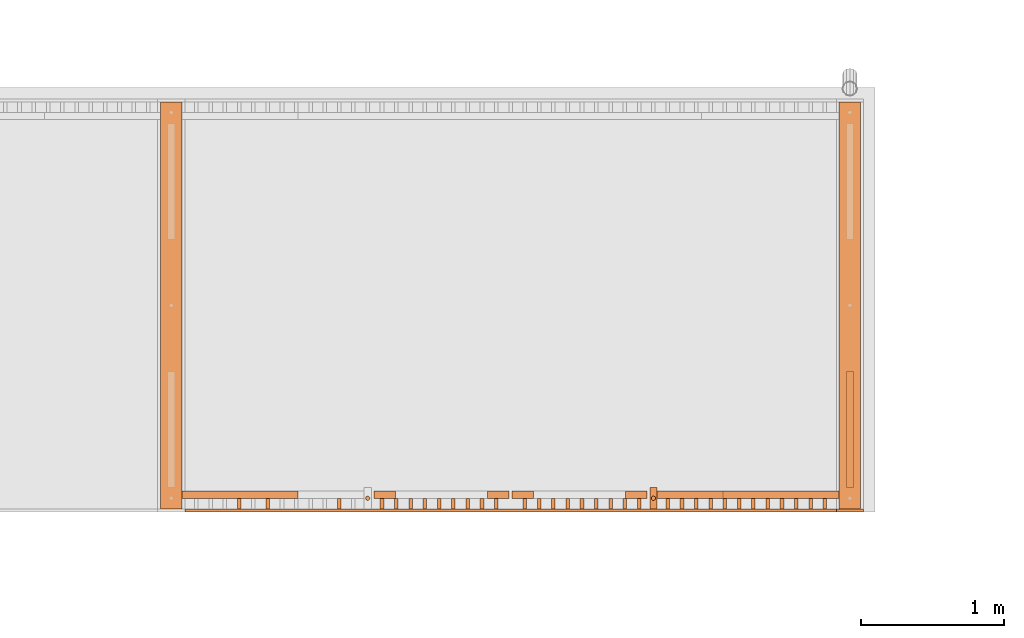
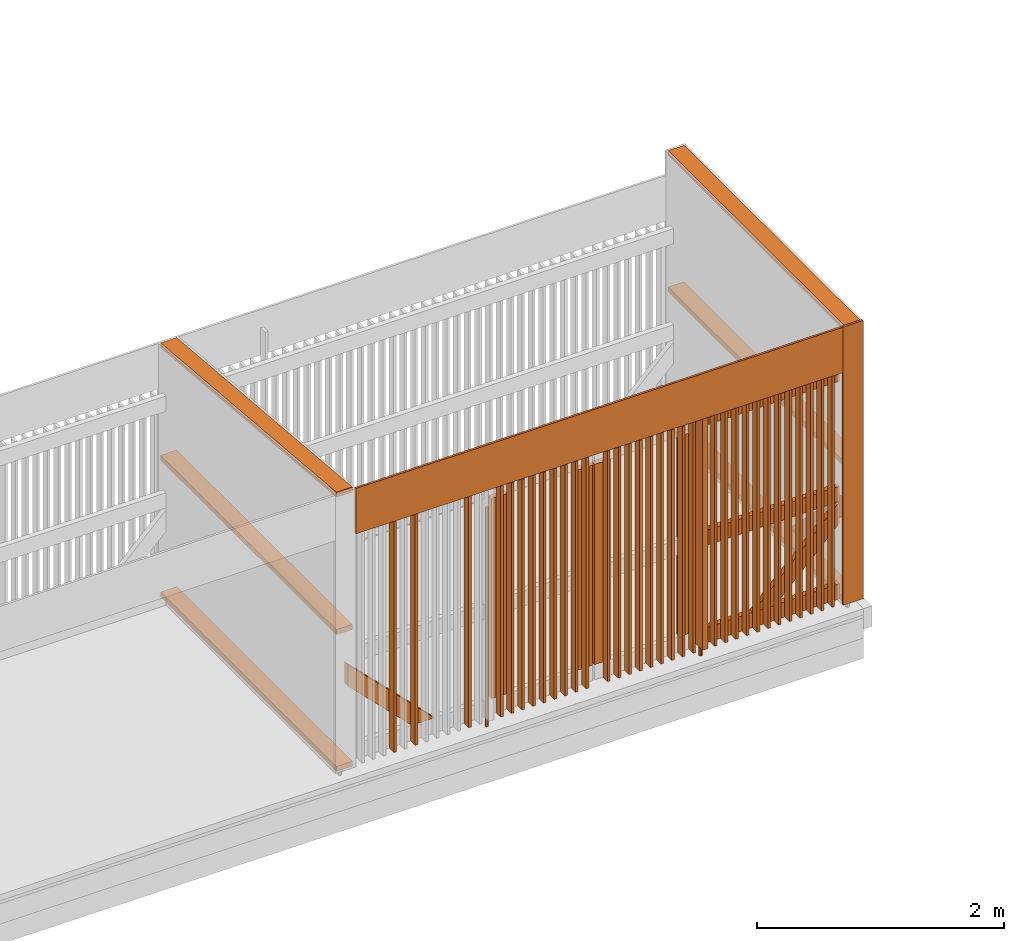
# One storey, part 353 of 418: 54 proxies.
"""IFC2X3 building model written with IfcOpenShell, lengths in millimetres."""

from ifc_helpers import new_model, entity, si_unit, converted_unit, derived_unit, money_unit, direction, frame, frame_2d, origin_with_axes, origin_2d_with_axis, place, context, subcontext, project, spatial, polyline, rectangle, circle, outline, extrude, clip, halfspace, material, type_object, element, save


model = new_model("IFC2X3")

# Units and contexts
model_context = context("Model", 3, precision=0.01, world=origin_with_axes(), true_north=direction((0.0, 1.0)))
body_context = subcontext(model_context, "Body", "Model", "MODEL_VIEW")
ifc_project = project(units=[si_unit("LENGTHUNIT", "METRE", prefix="MILLI"), si_unit("AREAUNIT", "SQUARE_METRE"), si_unit("VOLUMEUNIT", "CUBIC_METRE"), converted_unit("PLANEANGLEUNIT", "DEGREE", entity("IfcPlaneAngleMeasure", 0.0174532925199), si_unit("PLANEANGLEUNIT", "RADIAN"), dimensions=[0, 0, 0, 0, 0, 0, 0]), si_unit("SOLIDANGLEUNIT", "STERADIAN"), money_unit("EUR"), converted_unit("TIMEUNIT", "Year", entity("IfcTimeMeasure", 31556926.0), si_unit("TIMEUNIT", "SECOND"), dimensions=[0, 0, 1, 0, 0, 0, 0]), si_unit("MASSUNIT", "GRAM", prefix="KILO"), si_unit("THERMODYNAMICTEMPERATUREUNIT", "DEGREE_CELSIUS"), si_unit("LUMINOUSINTENSITYUNIT", "LUMEN"), si_unit("ENERGYUNIT", "JOULE", prefix="MEGA"), derived_unit("THERMALCONDUCTANCEUNIT", [(si_unit("POWERUNIT", "WATT"), 1), (si_unit("LENGTHUNIT", "METRE"), -1), (si_unit("THERMODYNAMICTEMPERATUREUNIT", "KELVIN"), -1)]), derived_unit("SPECIFICHEATCAPACITYUNIT", [(si_unit("ENERGYUNIT", "JOULE"), 1), (si_unit("MASSUNIT", "GRAM", prefix="KILO"), -1), (si_unit("THERMODYNAMICTEMPERATUREUNIT", "KELVIN"), -1)]), derived_unit("MASSDENSITYUNIT", [(si_unit("MASSUNIT", "GRAM", prefix="KILO"), 1), (si_unit("VOLUMEUNIT", "CUBIC_METRE"), -1)])], contexts=[model_context])

# Site, building, storey
site_placement = place(None, origin_with_axes())
site = spatial("IfcSite", under=ifc_project, at=site_placement, Name="Paldiski mnt 245/1, Tallinn, Harjumaa", CompositionType="COMPLEX")
building_placement = place(site_placement, origin_with_axes())
building = spatial("IfcBuilding", under=site, at=building_placement, Name="RKAS Hoone üldnimetus (kasutust iseloomustav) -> IFC Project Manager -> SOLIBRI", CompositionType="ELEMENT")
storey_placement = place(building_placement, origin_with_axes())
storey = spatial("IfcBuildingStorey", under=building, at=storey_placement, Name="Esimene korrus", CompositionType="ELEMENT", Elevation=0.0)

# Proxies
ifc_material_1 = material(Name="Voodrilaud UYS 21x120mm")
building_element_proxy_type_1 = type_object("IfcBuildingElementProxyType", Name="Voodrilaud UYS 21x120mm 20", PredefinedType="NOTDEFINED")
proxy_1_placement = place(storey_placement, frame((-7319.27179277, 11169.7949735, -960.0), z_axis=(0.0, 0.0, 1.0), x_axis=(1.0, 0.0, 0.0)))
element("IfcBuildingElementProxy", 1, at=proxy_1_placement, inside=storey, type_object=building_element_proxy_type_1, material=ifc_material_1, Name="Välissein_1", context=body_context, shape_type="SweptSolid", body=[
    extrude(outline(polyline([(0.0, -20.0), (189.999991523, -20.0), (189.999991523, 0.0), (0.0, 0.0), (0.0, -20.0)])), origin_with_axes(), (0.0, 0.0, 1.0), 2752.59465133),
])
ifc_material_2 = material(Name="Puit konstruktsioon")
building_element_proxy_type_2 = type_object("IfcBuildingElementProxyType", Name="Puit konstruktsioon 50 x 150", PredefinedType="NOTDEFINED")
for number, where, z_axis, x_axis, name in (
    (2, (-7299.27179195, 11269.7949578, 153.066690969), (0.0, 0.0, 1.0), (0.0, 1.0, 0.0), "Puitpruss 50x150mm"),
    (3, (-7299.27179195, 11269.7949578, 1342.59465133), (0.0, 0.0, 1.0), (0.0, 1.0, 0.0), "Puitpruss 50x150mm"),
):
    element("IfcBuildingElementProxy", number, at=place(storey_placement, frame(where, z_axis=z_axis, x_axis=x_axis)), inside=storey, type_object=building_element_proxy_type_2, material=ifc_material_2, Name=name, context=body_context, shape_type="SweptSolid", body=[
        extrude(rectangle(XDim=150.0, YDim=50.0, at=frame_2d((-75.0, 0.0), x_axis=(1.0, 0.0))), frame((0.0, 0.0, 0.0), z_axis=(0.0, 1.0, 0.0), x_axis=(0.0, 0.0, 1.0)), (0.0, 0.0, 1.0), 1275.0000093),
    ])
for number, where, z_axis, x_axis, name in (
    (4, (-10479.2718012, 11269.7949578, -810.0), (0.0, 0.0, 1.0), (0.0, 1.0, 0.0), "Puitraam 50x150mm"),
    (5, (-9684.27180125, 11269.7949578, -810.0), (0.0, 0.0, 1.0), (0.0, 1.0, 0.0), "Puitraam 50x150mm"),
):
    element("IfcBuildingElementProxy", number, at=place(storey_placement, frame(where, z_axis=z_axis, x_axis=x_axis)), inside=storey, type_object=building_element_proxy_type_2, material=ifc_material_2, Name=name, context=body_context, shape_type="SweptSolid", body=[
        extrude(rectangle(XDim=50.0, YDim=150.0, at=origin_2d_with_axis()), origin_with_axes(), (0.0, 0.0, 1.0), 1982.59465133),
    ])
proxy_2_placement = place(storey_placement, frame((-8110.80517379, 11269.7949578, -811.53338184), z_axis=(0.0, 0.0, 1.0), x_axis=(0.0, -1.0, 0.0)))
element("IfcBuildingElementProxy", 6, at=proxy_2_placement, inside=storey, type_object=building_element_proxy_type_2, material=ifc_material_2, Name="Puitpruss 150x50 mm", context=body_context, shape_type="Clipping", body=[
    clip(clip(extrude(rectangle(XDim=150.0, YDim=50.0, at=frame_2d((-75.0, 0.0), x_axis=(1.0, 0.0))), frame((0.0, -150.0, -150.0), z_axis=(0.0, 0.707106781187, 0.707106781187), x_axis=(0.0, -0.707106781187, 0.707106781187)), (0.0, 0.0, 1.0), 1571.94558363), halfspace(frame((0.0, 0.0, 0.0), z_axis=(0.0, 0.0, 1.0), x_axis=(0.0, -1.0, 0.0)), True)), halfspace(frame((0.0, 811.53338184, 0.0), z_axis=(0.0, -1.0, 0.0), x_axis=(0.0, 0.0, -1.0)), True)),
])
proxy_3_placement = place(storey_placement, frame((-8599.27180125, 11244.7949578, -960.0), z_axis=(0.0, 0.0, 1.0), x_axis=(-1.0, 0.0, 0.0)))
element("IfcBuildingElementProxy", 7, at=proxy_3_placement, inside=storey, type_object=building_element_proxy_type_2, material=ifc_material_2, Name="Puitpruss 50x150 mm", context=body_context, shape_type="SweptSolid", body=[
    extrude(rectangle(XDim=50.0, YDim=150.0, at=origin_2d_with_axis()), origin_with_axes(), (0.0, 0.0, 1.0), 2302.59465133),
])
proxy_4_placement = place(storey_placement, frame((-7299.27179195, 11269.7949578, -810.0), z_axis=(0.0, 0.0, 1.0), x_axis=(0.0, 1.0, 0.0)))
element("IfcBuildingElementProxy", 8, at=proxy_4_placement, inside=storey, type_object=building_element_proxy_type_2, material=ifc_material_2, Name="Puitpruss 50x150 mm", context=body_context, shape_type="SweptSolid", body=[
    extrude(rectangle(XDim=150.0, YDim=50.0, at=frame_2d((-75.0, 0.0), x_axis=(1.0, 0.0))), frame((0.0, 0.0, 0.0), z_axis=(0.0, 1.0, 0.0), x_axis=(0.0, 0.0, 1.0)), (0.0, 0.0, 1.0), 1275.0000093),
])
for number, where, z_axis, x_axis, name in (
    (9, (-8719.27180125, 11269.7949578, -810.0), (0.0, 0.0, 1.0), (0.0, -1.0, 0.0), "Puitraam 50x150mm"),
    (10, (-9514.27180125, 11269.7949578, -810.0), (0.0, 0.0, 1.0), (0.0, -1.0, 0.0), "Puitraam 50x150mm"),
):
    element("IfcBuildingElementProxy", number, at=place(storey_placement, frame(where, z_axis=z_axis, x_axis=x_axis)), inside=storey, type_object=building_element_proxy_type_2, material=ifc_material_2, Name=name, context=body_context, shape_type="SweptSolid", body=[
        extrude(rectangle(XDim=50.0, YDim=150.0, at=origin_2d_with_axis()), frame((0.0, 0.0, 0.0), z_axis=(0.0, 0.0, -1.0), x_axis=(-1.0, 0.0, 0.0)), (0.0, 0.0, -1.0), 1982.59465133),
    ])
proxy_5_placement = place(storey_placement, frame((-11087.7384651, 11269.7949578, -811.533345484), z_axis=(0.0, 0.0, 1.0), x_axis=(0.0, 1.0, 0.0)))
element("IfcBuildingElementProxy", 11, at=proxy_5_placement, inside=storey, type_object=building_element_proxy_type_2, material=ifc_material_2, Name="Puitpruss 150x50 mm", context=body_context, shape_type="Clipping", body=[
    clip(clip(extrude(rectangle(XDim=150.0, YDim=50.0, at=frame_2d((-75.0, 0.0), x_axis=(1.0, 0.0))), frame((0.0, -150.0, -150.0), z_axis=(0.0, 0.707106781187, 0.707106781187), x_axis=(0.0, -0.707106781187, 0.707106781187)), (0.0, 0.0, 1.0), 1571.94553221), halfspace(frame((0.0, 0.0, 0.0), z_axis=(0.0, 0.0, 1.0), x_axis=(0.0, -1.0, 0.0)), True)), halfspace(frame((0.0, 811.533345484, 0.0), z_axis=(0.0, -1.0, 0.0), x_axis=(0.0, 0.0, -1.0)), True)),
])
proxy_6_placement = place(storey_placement, frame((-7224.27180125, 12132.8616487, -810.0), z_axis=(0.0, 0.0, 1.0), x_axis=(-1.0, 0.0, 0.0)))
element("IfcBuildingElementProxy", 12, at=proxy_6_placement, inside=storey, type_object=building_element_proxy_type_2, material=ifc_material_2, Name="Puitpruss 150x50 mm", context=body_context, shape_type="Clipping", body=[
    clip(clip(extrude(rectangle(XDim=150.0, YDim=50.0, at=frame_2d((-75.0, 0.0), x_axis=(1.0, 0.0))), frame((0.0, -150.0, -150.0), z_axis=(0.0, 0.707106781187, 0.707106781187), x_axis=(0.0, -0.707106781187, 0.707106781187)), (0.0, 0.0, 1.0), 1574.11401019), halfspace(frame((0.0, 0.0, 0.0), z_axis=(0.0, 0.0, 1.0), x_axis=(0.0, -1.0, 0.0)), True)), halfspace(frame((0.0, 813.066690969, 0.0), z_axis=(0.0, -1.0, 0.0), x_axis=(0.0, 0.0, -1.0)), True)),
])
building_element_proxy_type_3 = type_object("IfcBuildingElementProxyType", Name="Puit konstruktsioon 25 x 75", PredefinedType="NOTDEFINED")
proxy_7_placement = place(storey_placement, frame((-9499.27179341, 11207.2949578, -960.0), z_axis=(0.0, 0.0, 1.0), x_axis=(-1.0, 0.0, 0.0)))
element("IfcBuildingElementProxy", 13, at=proxy_7_placement, inside=storey, type_object=building_element_proxy_type_3, material=ifc_material_2, Name="Puitlaud 25x75 mm", context=body_context, shape_type="SweptSolid", body=[
    extrude(rectangle(XDim=25.0, YDim=75.0, at=origin_2d_with_axis()), frame((0.0, 0.0, 0.0), z_axis=(0.0, 0.0, -1.0), x_axis=(-1.0, 0.0, 0.0)), (0.0, 0.0, -1.0), 2283.0),
])
for number, where, z_axis, x_axis, name in (
    (14, (-10199.2717934, 11207.2949578, -960.0), (0.0, 0.0, 1.0), (-1.0, 0.0, 0.0), "Puitlaud 25x75 mm"),
    (15, (-10299.2717934, 11207.2949578, -960.0), (0.0, 0.0, 1.0), (-1.0, 0.0, 0.0), "Puitlaud 25x75 mm"),
):
    element("IfcBuildingElementProxy", number, at=place(storey_placement, frame(where, z_axis=z_axis, x_axis=x_axis)), inside=storey, type_object=building_element_proxy_type_3, material=ifc_material_2, Name=name, context=body_context, shape_type="SweptSolid", body=[
        extrude(rectangle(XDim=25.0, YDim=75.0, at=origin_2d_with_axis()), origin_with_axes(), (0.0, 0.0, 1.0), 2283.0),
    ])
proxy_8_placement = place(storey_placement, frame((-9399.27179341, 11207.2949578, -960.0), z_axis=(0.0, 0.0, 1.0), x_axis=(-1.0, 0.0, 0.0)))
element("IfcBuildingElementProxy", 16, at=proxy_8_placement, inside=storey, type_object=building_element_proxy_type_3, material=ifc_material_2, Name="Puitlaud 25x75 mm", context=body_context, shape_type="SweptSolid", body=[
    extrude(rectangle(XDim=25.0, YDim=75.0, at=origin_2d_with_axis()), frame((0.0, 0.0, 0.0), z_axis=(0.0, 0.0, -1.0), x_axis=(-1.0, 0.0, 0.0)), (0.0, 0.0, -1.0), 2283.0),
])
proxy_9_placement = place(storey_placement, frame((-9799.27179341, 11207.2949578, -960.0), z_axis=(0.0, 0.0, 1.0), x_axis=(-1.0, 0.0, 0.0)))
element("IfcBuildingElementProxy", 17, at=proxy_9_placement, inside=storey, type_object=building_element_proxy_type_3, material=ifc_material_2, Name="Puitlaud 25x75 mm", context=body_context, shape_type="SweptSolid", body=[
    extrude(rectangle(XDim=25.0, YDim=75.0, at=origin_2d_with_axis()), origin_with_axes(), (0.0, 0.0, 1.0), 2283.0),
])
for number, where, z_axis, x_axis, name in (
    (18, (-8199.27179341, 11207.2949578, -960.0), (0.0, 0.0, 1.0), (-1.0, 0.0, 0.0), "Puitlaud 25x75 mm"),
    (19, (-8299.27179341, 11207.2949578, -960.0), (0.0, 0.0, 1.0), (-1.0, 0.0, 0.0), "Puitlaud 25x75 mm"),
    (20, (-7999.27179341, 11207.2949578, -960.0), (0.0, 0.0, 1.0), (-1.0, 0.0, 0.0), "Puitlaud 25x75 mm"),
    (21, (-8099.27179341, 11207.2949578, -960.0), (0.0, 0.0, 1.0), (-1.0, 0.0, 0.0), "Puitlaud 25x75 mm"),
):
    element("IfcBuildingElementProxy", number, at=place(storey_placement, frame(where, z_axis=z_axis, x_axis=x_axis)), inside=storey, type_object=building_element_proxy_type_3, material=ifc_material_2, Name=name, context=body_context, shape_type="SweptSolid", body=[
        extrude(rectangle(XDim=25.0, YDim=75.0, at=origin_2d_with_axis()), origin_with_axes(), (0.0, 0.0, 1.0), 2302.59465133),
    ])
proxy_10_placement = place(storey_placement, frame((-10399.2717934, 11207.2949578, -960.0), z_axis=(0.0, 0.0, 1.0), x_axis=(-1.0, 0.0, 0.0)))
element("IfcBuildingElementProxy", 22, at=proxy_10_placement, inside=storey, type_object=building_element_proxy_type_3, material=ifc_material_2, Name="Puitlaud 25x75 mm", context=body_context, shape_type="SweptSolid", body=[
    extrude(rectangle(XDim=25.0, YDim=75.0, at=origin_2d_with_axis()), origin_with_axes(), (0.0, 0.0, 1.0), 2283.0),
])
for number, where, z_axis, x_axis, name in (
    (23, (-8699.27179341, 11207.2949578, -960.0), (0.0, 0.0, 1.0), (-1.0, 0.0, 0.0), "Puitlaud 25x75 mm"),
    (24, (-8799.27179341, 11207.2949578, -960.0), (0.0, 0.0, 1.0), (-1.0, 0.0, 0.0), "Puitlaud 25x75 mm"),
    (25, (-8899.27179341, 11207.2949578, -960.0), (0.0, 0.0, 1.0), (-1.0, 0.0, 0.0), "Puitlaud 25x75 mm"),
    (26, (-9199.27179341, 11207.2949578, -960.0), (0.0, 0.0, 1.0), (-1.0, 0.0, 0.0), "Puitlaud 25x75 mm"),
    (27, (-9299.27179341, 11207.2949578, -960.0), (0.0, 0.0, 1.0), (-1.0, 0.0, 0.0), "Puitlaud 25x75 mm"),
):
    element("IfcBuildingElementProxy", number, at=place(storey_placement, frame(where, z_axis=z_axis, x_axis=x_axis)), inside=storey, type_object=building_element_proxy_type_3, material=ifc_material_2, Name=name, context=body_context, shape_type="SweptSolid", body=[
        extrude(rectangle(XDim=25.0, YDim=75.0, at=origin_2d_with_axis()), frame((0.0, 0.0, 0.0), z_axis=(0.0, 0.0, -1.0), x_axis=(-1.0, 0.0, 0.0)), (0.0, 0.0, -1.0), 2283.0),
    ])
for number, where, z_axis, x_axis, name in (
    (28, (-8399.27179341, 11207.2949578, -960.0), (0.0, 0.0, 1.0), (-1.0, 0.0, 0.0), "Puitlaud 25x75 mm"),
    (29, (-8499.27179341, 11207.2949578, -960.0), (0.0, 0.0, 1.0), (-1.0, 0.0, 0.0), "Puitlaud 25x75 mm"),
):
    element("IfcBuildingElementProxy", number, at=place(storey_placement, frame(where, z_axis=z_axis, x_axis=x_axis)), inside=storey, type_object=building_element_proxy_type_3, material=ifc_material_2, Name=name, context=body_context, shape_type="SweptSolid", body=[
        extrude(rectangle(XDim=25.0, YDim=75.0, at=origin_2d_with_axis()), origin_with_axes(), (0.0, 0.0, 1.0), 2302.59465133),
    ])
for number, where, z_axis, x_axis, name in (
    (30, (-9099.27179341, 11207.2949578, -960.0), (0.0, 0.0, 1.0), (-1.0, 0.0, 0.0), "Puitlaud 25x75 mm"),
    (31, (-8999.27179341, 11207.2949578, -960.0), (0.0, 0.0, 1.0), (-1.0, 0.0, 0.0), "Puitlaud 25x75 mm"),
):
    element("IfcBuildingElementProxy", number, at=place(storey_placement, frame(where, z_axis=z_axis, x_axis=x_axis)), inside=storey, type_object=building_element_proxy_type_3, material=ifc_material_2, Name=name, context=body_context, shape_type="SweptSolid", body=[
        extrude(rectangle(XDim=25.0, YDim=75.0, at=origin_2d_with_axis()), frame((0.0, 0.0, 0.0), z_axis=(0.0, 0.0, -1.0), x_axis=(-1.0, 0.0, 0.0)), (0.0, 0.0, -1.0), 2283.0),
    ])
for number, where, z_axis, x_axis, name in (
    (32, (-9699.27179341, 11207.2949578, -960.0), (0.0, 0.0, 1.0), (-1.0, 0.0, 0.0), "Puitlaud 25x75 mm"),
    (33, (-10499.2717934, 11207.2949578, -960.0), (0.0, 0.0, 1.0), (-1.0, 0.0, 0.0), "Puitlaud 25x75 mm"),
):
    element("IfcBuildingElementProxy", number, at=place(storey_placement, frame(where, z_axis=z_axis, x_axis=x_axis)), inside=storey, type_object=building_element_proxy_type_3, material=ifc_material_2, Name=name, context=body_context, shape_type="SweptSolid", body=[
        extrude(rectangle(XDim=25.0, YDim=75.0, at=origin_2d_with_axis()), origin_with_axes(), (0.0, 0.0, 1.0), 2283.0),
    ])
proxy_11_placement = place(storey_placement, frame((-10799.2717934, 11207.2949578, -960.0), z_axis=(0.0, 0.0, 1.0), x_axis=(-1.0, 0.0, 0.0)))
element("IfcBuildingElementProxy", 34, at=proxy_11_placement, inside=storey, type_object=building_element_proxy_type_3, material=ifc_material_2, Name="Puitlaud 25x75 mm", context=body_context, shape_type="SweptSolid", body=[
    extrude(rectangle(XDim=25.0, YDim=75.0, at=origin_2d_with_axis()), origin_with_axes(), (0.0, 0.0, 1.0), 2302.59465133),
])
for number, where, z_axis, x_axis, name in (
    (35, (-9899.27179341, 11207.2949578, -960.0), (0.0, 0.0, 1.0), (-1.0, 0.0, 0.0), "Puitlaud 25x75 mm"),
    (36, (-10099.2717934, 11207.2949578, -960.0), (0.0, 0.0, 1.0), (-1.0, 0.0, 0.0), "Puitlaud 25x75 mm"),
    (37, (-9999.27179341, 11207.2949578, -960.0), (0.0, 0.0, 1.0), (-1.0, 0.0, 0.0), "Puitlaud 25x75 mm"),
):
    element("IfcBuildingElementProxy", number, at=place(storey_placement, frame(where, z_axis=z_axis, x_axis=x_axis)), inside=storey, type_object=building_element_proxy_type_3, material=ifc_material_2, Name=name, context=body_context, shape_type="SweptSolid", body=[
        extrude(rectangle(XDim=25.0, YDim=75.0, at=origin_2d_with_axis()), origin_with_axes(), (0.0, 0.0, 1.0), 2283.0),
    ])
for number, where, z_axis, x_axis, name in (
    (38, (-11499.2717934, 11207.2949578, -960.0), (0.0, 0.0, 1.0), (-1.0, 0.0, 0.0), "Puitlaud 25x75 mm"),
    (39, (-11299.2717934, 11207.2949578, -960.0), (0.0, 0.0, 1.0), (-1.0, 0.0, 0.0), "Puitlaud 25x75 mm"),
    (40, (-7599.27179341, 11207.2949578, -960.0), (0.0, 0.0, 1.0), (-1.0, 0.0, 0.0), "Puitlaud 25x75 mm"),
    (41, (-7699.27179341, 11207.2949578, -960.0), (0.0, 0.0, 1.0), (-1.0, 0.0, 0.0), "Puitlaud 25x75 mm"),
    (42, (-7399.27179341, 11207.2949578, -960.0), (0.0, 0.0, 1.0), (-1.0, 0.0, 0.0), "Puitlaud 25x75 mm"),
    (43, (-7499.27179341, 11207.2949578, -960.0), (0.0, 0.0, 1.0), (-1.0, 0.0, 0.0), "Puitlaud 25x75 mm"),
    (44, (-7799.27179341, 11207.2949578, -960.0), (0.0, 0.0, 1.0), (-1.0, 0.0, 0.0), "Puitlaud 25x75 mm"),
    (45, (-7899.27179341, 11207.2949578, -960.0), (0.0, 0.0, 1.0), (-1.0, 0.0, 0.0), "Puitlaud 25x75 mm"),
):
    element("IfcBuildingElementProxy", number, at=place(storey_placement, frame(where, z_axis=z_axis, x_axis=x_axis)), inside=storey, type_object=building_element_proxy_type_3, material=ifc_material_2, Name=name, context=body_context, shape_type="SweptSolid", body=[
        extrude(rectangle(XDim=25.0, YDim=75.0, at=origin_2d_with_axis()), origin_with_axes(), (0.0, 0.0, 1.0), 2302.59465133),
    ])
ifc_material_3 = material(Name="ET-03_Raud")
building_element_proxy_type_4 = type_object("IfcBuildingElementProxyType", Name="ET-03_Raud D30", PredefinedType="NOTDEFINED")
for number, where, z_axis, x_axis in (
    (46, (-10599.2718012, 11244.7949578, -1060.0), (0.0, 0.0, 1.0), (-1.0, 0.0, 0.0)),
    (47, (-8599.27180125, 11244.7949578, -1060.0), (0.0, 0.0, 1.0), (-1.0, 0.0, 0.0)),
):
    element("IfcBuildingElementProxy", number, at=place(storey_placement, frame(where, z_axis=z_axis, x_axis=x_axis)), inside=storey, type_object=building_element_proxy_type_4, material=ifc_material_3, Name="Terasking", context=body_context, shape_type="SweptSolid", body=[
        extrude(circle(Radius=15.0, at=origin_2d_with_axis()), origin_with_axes(), (0.0, 0.0, 1.0), 2163.68116741),
    ])
ifc_material_4 = material(Name="GENERIC - STRUCTURAL")
building_element_proxy_type_5 = type_object("IfcBuildingElementProxyType", Name="GENERIC - STRUCTURAL 150 x 50", PredefinedType="NOTDEFINED")
proxy_12_placement = place(storey_placement, frame((-11974.2718486, 11169.7949735, -910.0), z_axis=(0.0, 0.0, 1.0), x_axis=(1.0, 0.0, 0.0)))
element("IfcBuildingElementProxy", 48, at=proxy_12_placement, inside=storey, type_object=building_element_proxy_type_5, material=ifc_material_4, Name="Puitpruss 150x50 mm", context=body_context, shape_type="SweptSolid", body=[
    extrude(rectangle(XDim=50.0, YDim=150.0, at=frame_2d((-25.0, 0.0), x_axis=(1.0, 0.0))), frame((0.0, 0.0, 0.0), z_axis=(0.0, 1.0, 0.0), x_axis=(0.0, 0.0, 1.0)), (0.0, 0.0, 1.0), 2848.99998425),
])
proxy_13_placement = place(storey_placement, frame((-11974.2718486, 11169.7949735, 1802.93634866), z_axis=(0.0, 0.0, 1.0), x_axis=(1.0, 0.0, 0.0)))
element("IfcBuildingElementProxy", 49, at=proxy_13_placement, inside=storey, type_object=building_element_proxy_type_5, material=ifc_material_4, Name="Puitpruss 150x50 mm", context=body_context, shape_type="Clipping", body=[
    clip(clip(extrude(rectangle(XDim=50.0, YDim=150.0, at=frame_2d((-25.0, 0.0), x_axis=(1.0, 0.0))), frame((0.0, -6.16284167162, 0.539178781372), z_axis=(0.0, 0.996194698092, -0.0871557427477), x_axis=(0.0, 0.0871557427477, 0.996194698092)), (0.0, 0.0, 1.0), 2872.2554668), halfspace(frame((0.0, 0.0, 0.0), z_axis=(0.0, 1.0, 0.0), x_axis=(0.0, 0.0, 1.0)), True)), halfspace(frame((0.0, 2848.99998425, 0.0), z_axis=(0.0, -1.0, 0.0), x_axis=(0.0, 0.0, -1.0)), True)),
])
for number, where, z_axis, x_axis, name in (
    (50, (-7224.27180125, 11169.7949735, 1792.59465133), (0.0, 0.0, 1.0), (1.0, 0.0, 0.0), "Puitpruss 150x50 mm"),
    (51, (-7224.27179701, 11169.7949735, -910.0), (0.0, 0.0, 1.0), (1.0, 0.0, 0.0), "Puitpruss 150x50 mm"),
    (52, (-11974.2718486, 11169.7949735, 442.594651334), (0.0, 0.0, 1.0), (1.0, 0.0, 0.0), "Puitpruss 150x50 mm"),
    (53, (-7224.27180125, 11169.7949735, 442.594651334), (0.0, 0.0, 1.0), (1.0, 0.0, 0.0), "Puitpruss 150x50 mm"),
):
    element("IfcBuildingElementProxy", number, at=place(storey_placement, frame(where, z_axis=z_axis, x_axis=x_axis)), inside=storey, type_object=building_element_proxy_type_5, material=ifc_material_4, Name=name, context=body_context, shape_type="SweptSolid", body=[
        extrude(rectangle(XDim=50.0, YDim=150.0, at=frame_2d((-25.0, 0.0), x_axis=(1.0, 0.0))), frame((0.0, 0.0, 0.0), z_axis=(0.0, 1.0, 0.0), x_axis=(0.0, 0.0, 1.0)), (0.0, 0.0, 1.0), 2848.99998425),
    ])
ifc_material_5 = material(Name="Laudis 5072 Honka 45 horisontaalne")
building_element_proxy_type_6 = type_object("IfcBuildingElementProxyType", Name="Laudis 5072 Honka 45 horisontaalne 20", PredefinedType="NOTDEFINED")
proxy_14_placement = place(storey_placement, frame((-11879.2718012, 11169.7949578, 1342.59465133), z_axis=(0.0, 0.0, 1.0), x_axis=(1.0, 0.0, 0.0)))
element("IfcBuildingElementProxy", 54, at=proxy_14_placement, inside=storey, type_object=building_element_proxy_type_6, material=ifc_material_5, Name="Puitlaudis UYS 20x120mm", context=body_context, shape_type="SweptSolid", body=[
    extrude(outline(polyline([(0.0, -20.0), (4560.0, -20.0), (4560.0, 0.0), (0.0, 0.0), (0.0, -20.0)])), origin_with_axes(), (0.0, 0.0, 1.0), 450.0),
])

save(model, "model.ifc")
